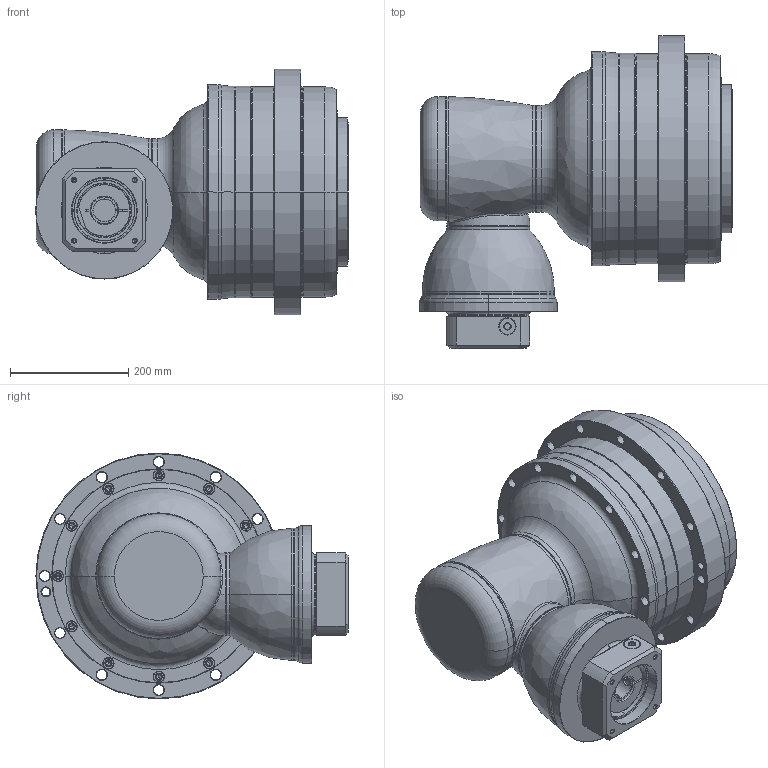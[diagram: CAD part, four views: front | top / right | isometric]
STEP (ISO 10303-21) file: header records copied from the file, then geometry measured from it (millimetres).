
FILE_DESCRIPTION((''),'2;1');
FILE_NAME('AHKA355_3ST_38-P0409900101_ASM','2016-12-06T',('d01943'),(''),'PRO/ENGINEER BY PARAMETRIC TECHNOLOGY CORPORATION, 2008410','PRO/ENGINEER BY PARAMETRIC TECHNOLOGY CORPORATION, 2008410','');
FILE_SCHEMA(('CONFIG_CONTROL_DESIGN'));
Length unit declared in the file: millimetre
Products named in the file (12): P1008600002; P1821100001; P0276100003; P0357100003; P1315600001; P1007600001; P1318600201; P0409900101; P0503900012; P0912602201; 21711422019; AHKA355_3ST_38-P0409900101_ASM
Assembly tree (11 placements, depth 2):
  AHKA355_3ST_38-P0409900101_ASM
    P1008600002
    P1821100001
    P0276100003
    P0357100003
    P1315600001
    P1007600001
    P1318600201
    P0409900101
    P0503900012
    P0912602201
    21711422019
Bounding box: 528 x 527 x 415 mm (x, y, z)
Volume: 36172237.7 mm3; surface area: 1757480.3 mm2
Topology: 12 solids, 12 shells, 949 faces, 2109 edges, 1221 vertices
Faces by surface type: cylinder 332, cone 328, torus 128, plane 124, bspline 35, sphere 2
Entity records: 32534 total; most frequent: CARTESIAN_POINT 10850, DIRECTION 4998, ORIENTED_EDGE 4106, AXIS2_PLACEMENT_3D 2136, EDGE_CURVE 2053, VERTEX_POINT 1221, CIRCLE 1199, EDGE_LOOP 1142
